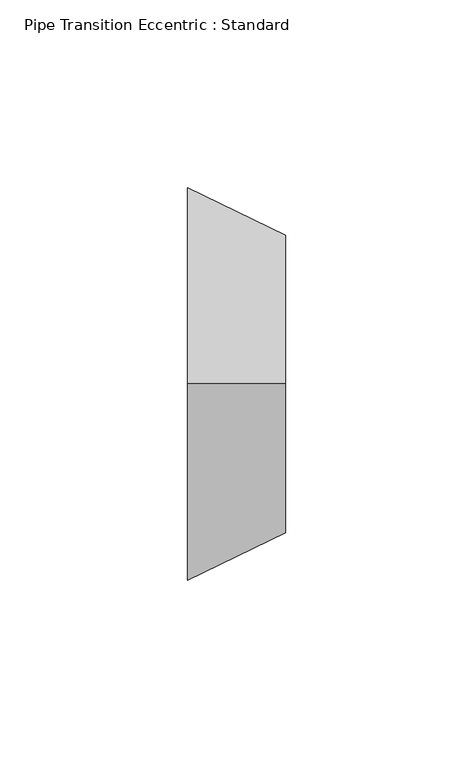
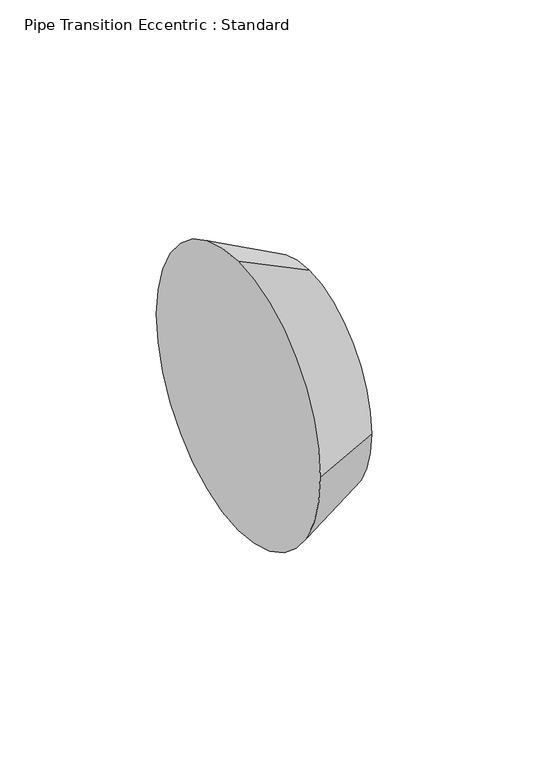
"""IFC4 building model written with IfcOpenShell, lengths in millimetres: pipe fitting geometry, Pipe Transition Eccentric : Standard."""

from ifc_helpers import new_model, si_unit, frame, origin, place, context, project, spatial, polyline, circle_curve, source, transform, mapped, element, save
from ifc_brep_helpers import plane_surface, revolved_surface, advanced_brep


def pipe_transition_eccentric_standard_33081ec6(model_context):
    return source(origin(), model_context, "Body", "AdvancedBrep", [
        advanced_brep(
        [(26.19375, 0.0, 39.6875), (26.19375, -39.6875, 0.0), (26.19375, 0.0, -39.6875), (26.19375, 39.6875, 0.0), (0.0, 0.0, 52.3875), (0.0, 52.3875, 0.0), (0.0, 0.0, -52.3875), (0.0, -52.3875, 0.0)],
        [
            (0, 1, circle_curve(frame((26.19375, 0.0, 0.0), z_axis=(1.0, 0.0, 0.0), x_axis=(0.0, 0.0, 1.0)), 39.6875)),
            (1, 2, circle_curve(frame((26.19375, 0.0, 0.0), z_axis=(1.0, 0.0, 0.0), x_axis=(0.0, -1.0, 0.0)), 39.6875)),
            (2, 3, circle_curve(frame((26.19375, 0.0, 0.0), z_axis=(1.0, 0.0, 0.0), x_axis=(0.0, 0.0, -1.0)), 39.6875)),
            (3, 0, circle_curve(frame((26.19375, 0.0, 0.0), z_axis=(1.0, 0.0, 0.0), x_axis=(0.0, 1.0, 0.0)), 39.6875)),
            (4, 5, circle_curve(frame((0.0, 0.0, 0.0), z_axis=(-1.0, 0.0, 0.0), x_axis=(0.0, 1.0, 0.0)), 52.3875)),
            (5, 6, circle_curve(frame((0.0, 0.0, 0.0), z_axis=(-1.0, 0.0, 0.0), x_axis=(0.0, 0.0, -1.0)), 52.3875)),
            (6, 7, circle_curve(frame((0.0, 0.0, 0.0), z_axis=(-1.0, 0.0, 0.0), x_axis=(0.0, -1.0, 0.0)), 52.3875)),
            (7, 4, circle_curve(frame((0.0, 0.0, 0.0), z_axis=(-1.0, 0.0, 0.0), x_axis=(0.0, 0.0, 1.0)), 52.3875)),
            (7, 1),
            (0, 4),
            (6, 2),
            (5, 3),
        ],
        [
            plane_surface(frame((26.19375, 0.0, 0.0), z_axis=(1.0, 0.0, 0.0), x_axis=(0.0, -1.0, 0.0))),
            plane_surface(frame((0.0, 0.0, 0.0), z_axis=(-1.0, 0.0, 0.0), x_axis=(0.0, -1.0, 0.0))),
            revolved_surface(polyline([(26.193749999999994, 0.0, 39.687500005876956), (0.0, 0.0, 52.3875)]), (108.0492188, 0.0, 0.0), (-1.0, 0.0, 0.0)),
            revolved_surface(polyline([(26.193749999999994, -39.687500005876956, 0.0), (0.0, -52.3875, 0.0)]), (108.0492188, 0.0, 0.0), (-1.0, 0.0, 0.0)),
            revolved_surface(polyline([(26.193749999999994, 0.0, -39.687500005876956), (0.0, 0.0, -52.3875)]), (108.0492188, 0.0, 0.0), (-1.0, 0.0, 0.0)),
            revolved_surface(polyline([(26.193749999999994, 39.687500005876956, 0.0), (0.0, 52.3875, 0.0)]), (108.0492188, 0.0, 0.0), (-1.0, 0.0, 0.0)),
        ],
        [
            (0, [[1, 2, 3, 4]]),
            (1, [[5, 6, 7, 8]]),
            (2, [[-8, 9, -1, 10]]),
            (3, [[-7, 11, -2, -9]]),
            (4, [[-6, 12, -3, -11]]),
            (5, [[-5, -10, -4, -12]]),
        ],
    ),
        advanced_brep(
        [(26.19375, 0.0, 39.6875), (26.19375, -39.6875, 0.0), (26.19375, 0.0, -39.6875), (26.19375, 39.6875, 0.0), (0.0, 0.0, 52.3875), (0.0, 52.3875, 0.0), (0.0, 0.0, -52.3875), (0.0, -52.3875, 0.0)],
        [
            (0, 1, circle_curve(frame((26.19375, 0.0, 0.0), z_axis=(1.0, 0.0, 0.0), x_axis=(0.0, 0.0, 1.0)), 39.6875)),
            (1, 2, circle_curve(frame((26.19375, 0.0, 0.0), z_axis=(1.0, 0.0, 0.0), x_axis=(0.0, -1.0, 0.0)), 39.6875)),
            (2, 3, circle_curve(frame((26.19375, 0.0, 0.0), z_axis=(1.0, 0.0, 0.0), x_axis=(0.0, 0.0, -1.0)), 39.6875)),
            (3, 0, circle_curve(frame((26.19375, 0.0, 0.0), z_axis=(1.0, 0.0, 0.0), x_axis=(0.0, 1.0, 0.0)), 39.6875)),
            (4, 5, circle_curve(frame((0.0, 0.0, 0.0), z_axis=(-1.0, 0.0, 0.0), x_axis=(0.0, 1.0, 0.0)), 52.3875)),
            (5, 6, circle_curve(frame((0.0, 0.0, 0.0), z_axis=(-1.0, 0.0, 0.0), x_axis=(0.0, 0.0, -1.0)), 52.3875)),
            (6, 7, circle_curve(frame((0.0, 0.0, 0.0), z_axis=(-1.0, 0.0, 0.0), x_axis=(0.0, -1.0, 0.0)), 52.3875)),
            (7, 4, circle_curve(frame((0.0, 0.0, 0.0), z_axis=(-1.0, 0.0, 0.0), x_axis=(0.0, 0.0, 1.0)), 52.3875)),
            (7, 1),
            (0, 4),
            (6, 2),
            (5, 3),
        ],
        [
            plane_surface(frame((26.19375, 0.0, 0.0), z_axis=(1.0, 0.0, 0.0), x_axis=(0.0, -1.0, 0.0))),
            plane_surface(frame((0.0, 0.0, 0.0), z_axis=(-1.0, 0.0, 0.0), x_axis=(0.0, -1.0, 0.0))),
            revolved_surface(polyline([(26.193749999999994, 0.0, 39.687500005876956), (0.0, 0.0, 52.3875)]), (108.0492188, 0.0, 0.0), (-1.0, 0.0, 0.0)),
            revolved_surface(polyline([(26.193749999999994, -39.687500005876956, 0.0), (0.0, -52.3875, 0.0)]), (108.0492188, 0.0, 0.0), (-1.0, 0.0, 0.0)),
            revolved_surface(polyline([(26.19375000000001, 0.0, -39.687499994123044), (0.0, 0.0, -52.3875)]), (108.0492187, 0.0, 0.0), (-1.0, 0.0, 0.0)),
            revolved_surface(polyline([(26.19375000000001, 39.687499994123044, 0.0), (0.0, 52.3875, 0.0)]), (108.0492187, 0.0, 0.0), (-1.0, 0.0, 0.0)),
        ],
        [
            (0, [[1, 2, 3, 4]]),
            (1, [[5, 6, 7, 8]]),
            (2, [[-8, 9, -1, 10]]),
            (3, [[-7, 11, -2, -9]]),
            (4, [[-6, 12, -3, -11]]),
            (5, [[-5, -10, -4, -12]]),
        ],
    ),
    ])


if __name__ == "__main__":
    model = new_model("IFC4")
    model_context = context("Model", 3, world=origin())
    ifc_project = project(units=[si_unit("LENGTHUNIT", "METRE", prefix="MILLI")], contexts=[model_context])
    site = spatial("IfcSite", under=ifc_project)
    building = spatial("IfcBuilding", under=site)
    placement = place(None, origin())
    pipe_transition_eccentric_standard_shape = pipe_transition_eccentric_standard_33081ec6(model_context)
    element("IfcPipeFitting", 1, ObjectType="Pipe Transition Eccentric : Standard", at=placement, inside=building, context=model_context, shape_type="MappedRepresentation", body=[
        mapped(pipe_transition_eccentric_standard_shape, transform((0.0, 0.0, 0.0), x_axis=(1.0, 0.0, 0.0), y_axis=(0.0, 1.0, 0.0), z_axis=(0.0, 0.0, 1.0))),
    ])
    save(model, "model.ifc")
